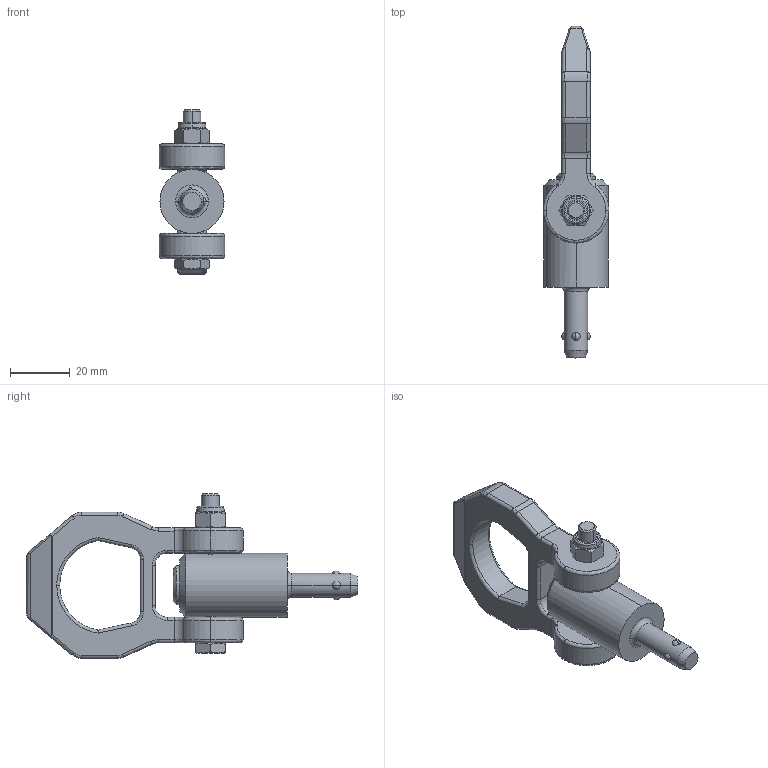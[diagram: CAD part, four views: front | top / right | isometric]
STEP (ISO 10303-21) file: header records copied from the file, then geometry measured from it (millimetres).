
FILE_DESCRIPTION (( 'STEP AP214' ), '1' );
FILE_NAME ('1130-8-15-NI.step', '2023-05-11T09:32:12', ( '' ), ( '' ), 'SwSTEP 2.0', 'SolidWorks 2022', '' );
FILE_SCHEMA (( 'AUTOMOTIVE_DESIGN' ));
Length unit declared in the file: millimetre
Products named in the file (3): Kopie von ring2^WB1130_NI; Kopie von bolzen1^WB1130_NI_8-15-NI; 1130-8-15-NI
Assembly tree (2 placements, depth 2):
  1130-8-15-NI
    Kopie von bolzen1^WB1130_NI_8-15-NI
    Kopie von ring2^WB1130_NI
Bounding box: 22 x 111.25 x 55.25 mm (x, y, z)
Volume: 33289.5 mm3; surface area: 12015.2 mm2
Topology: 2 solids, 2 shells, 248 faces, 611 edges, 375 vertices
Faces by surface type: plane 83, cylinder 77, bspline 48, cone 26, sphere 8, torus 6
Entity records: 9676 total; most frequent: CARTESIAN_POINT 4288, ORIENTED_EDGE 1222, DIRECTION 919, EDGE_CURVE 611, VERTEX_POINT 375, AXIS2_PLACEMENT_3D 345, EDGE_LOOP 262, ADVANCED_FACE 248
